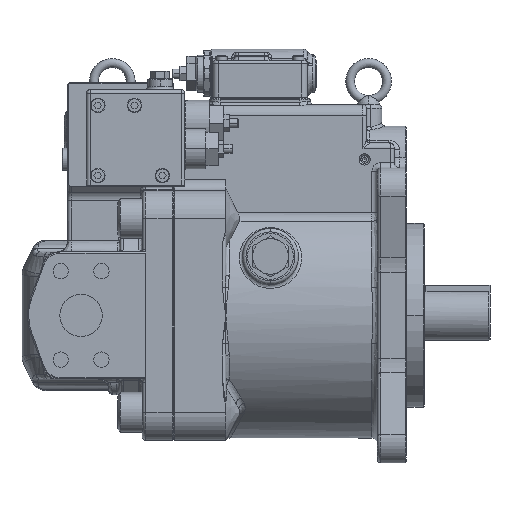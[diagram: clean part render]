
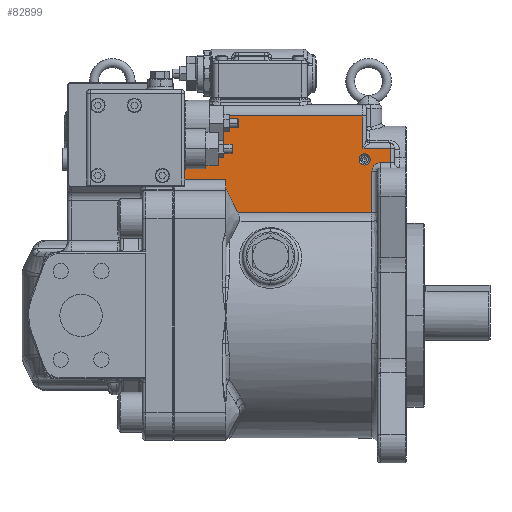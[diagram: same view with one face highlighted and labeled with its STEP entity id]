
A CAD part, left-side view. The second image highlights one B-rep face of the part: STEP entity #82899.
In plain terms, the highlighted planar face has unit normal (-1, 0, 0).
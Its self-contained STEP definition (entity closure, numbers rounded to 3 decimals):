
#65804=CARTESIAN_POINT('',(-66.669,49.394,117.955));
#65805=VERTEX_POINT('',#65804);
#65806=CARTESIAN_POINT('',(-66.669,49.394,112.955));
#65807=DIRECTION('',(1.0,0.0,0.0));
#65808=DIRECTION('',(0.0,0.0,1.0));
#65809=AXIS2_PLACEMENT_3D('',#65806,#65807,#65808);
#65810=CIRCLE('',#65809,5.0);
#65811=EDGE_CURVE('',#65805,#65805,#65810,.T.);
#68296=CARTESIAN_POINT('',(-66.669,219.894,151.955));
#68297=VERTEX_POINT('',#68296);
#68305=CARTESIAN_POINT('',(-66.669,50.894,151.955));
#68306=VERTEX_POINT('',#68305);
#68307=CARTESIAN_POINT('',(-66.669,219.894,151.955));
#68308=DIRECTION('',(0.0,-1.0,0.0));
#68309=VECTOR('',#68308,169.);
#68310=LINE('',#68307,#68309);
#68311=EDGE_CURVE('',#68297,#68306,#68310,.T.);
#71828=CARTESIAN_POINT('',(-66.669,163.32,64.993));
#71829=VERTEX_POINT('',#71828);
#71837=CARTESIAN_POINT('',(-66.669,173.894,86.955));
#71838=VERTEX_POINT('',#71837);
#71839=CARTESIAN_POINT('',(-66.669,173.894,86.955));
#71840=DIRECTION('',(0.0,-0.434,-0.901));
#71841=VECTOR('',#71840,24.375);
#71842=LINE('',#71839,#71841);
#71843=EDGE_CURVE('',#71838,#71829,#71842,.T.);
#78336=CARTESIAN_POINT('',(-66.669,50.894,122.955));
#78337=VERTEX_POINT('',#78336);
#81207=CARTESIAN_POINT('',(-66.669,50.894,151.955));
#81208=DIRECTION('',(0.0,0.0,-1.0));
#81209=VECTOR('',#81208,29.);
#81210=LINE('',#81207,#81209);
#81211=EDGE_CURVE('',#68306,#78337,#81210,.T.);
#81839=CARTESIAN_POINT('',(-66.669,25.894,110.205));
#81840=VERTEX_POINT('',#81839);
#81873=CARTESIAN_POINT('',(-66.669,34.894,110.205));
#81874=VERTEX_POINT('',#81873);
#81891=CARTESIAN_POINT('',(-66.669,25.894,110.205));
#81892=DIRECTION('',(0.0,1.0,0.0));
#81893=VECTOR('',#81892,9.);
#81894=LINE('',#81891,#81893);
#81895=EDGE_CURVE('',#81840,#81874,#81894,.T.);
#81953=CARTESIAN_POINT('',(-66.669,42.894,102.205));
#81954=VERTEX_POINT('',#81953);
#81972=CARTESIAN_POINT('',(-66.669,34.894,102.205));
#81973=DIRECTION('',(-1.,0.0,0.0));
#81974=DIRECTION('',(0.0,0.707,0.707));
#81975=AXIS2_PLACEMENT_3D('',#81972,#81973,#81974);
#81976=CIRCLE('',#81975,8.);
#81977=EDGE_CURVE('',#81874,#81954,#81976,.T.);
#81987=CARTESIAN_POINT('',(-66.669,42.894,64.993));
#81988=VERTEX_POINT('',#81987);
#82005=CARTESIAN_POINT('',(-66.669,42.894,102.205));
#82006=DIRECTION('',(0.0,0.0,-1.0));
#82007=VECTOR('',#82006,37.212);
#82008=LINE('',#82005,#82007);
#82009=EDGE_CURVE('',#81954,#81988,#82008,.T.);
#82743=CARTESIAN_POINT('',(-66.669,25.894,122.955));
#82744=VERTEX_POINT('',#82743);
#82801=CARTESIAN_POINT('',(-66.669,25.894,122.955));
#82802=DIRECTION('',(0.0,1.0,0.0));
#82803=VECTOR('',#82802,25.);
#82804=LINE('',#82801,#82803);
#82805=EDGE_CURVE('',#82744,#78337,#82804,.T.);
#82844=CARTESIAN_POINT('',(-66.669,25.894,122.955));
#82845=DIRECTION('',(0.0,0.0,-1.0));
#82846=VECTOR('',#82845,12.75);
#82847=LINE('',#82844,#82846);
#82848=EDGE_CURVE('',#82744,#81840,#82847,.T.);
#82853=CARTESIAN_POINT('',(-66.669,16.194,60.644));
#82854=DIRECTION('',(-1.0,0.0,0.0));
#82855=DIRECTION('',(0.0,0.0,1.0));
#82856=AXIS2_PLACEMENT_3D('',#82853,#82854,#82855);
#82857=PLANE('',#82856);
#82858=ORIENTED_EDGE('',*,*,#81211,.F.);
#82859=ORIENTED_EDGE('',*,*,#68311,.F.);
#82860=CARTESIAN_POINT('',(-66.669,219.894,94.955));
#82861=VERTEX_POINT('',#82860);
#82862=CARTESIAN_POINT('',(-66.669,219.894,94.955));
#82863=DIRECTION('',(0.0,0.0,1.0));
#82864=VECTOR('',#82863,57.);
#82865=LINE('',#82862,#82864);
#82866=EDGE_CURVE('',#82861,#68297,#82865,.T.);
#82867=ORIENTED_EDGE('',*,*,#82866,.F.);
#82868=CARTESIAN_POINT('',(-66.669,173.894,94.955));
#82869=VERTEX_POINT('',#82868);
#82870=CARTESIAN_POINT('',(-66.669,219.894,94.955));
#82871=DIRECTION('',(0.0,-1.0,0.0));
#82872=VECTOR('',#82871,46.0);
#82873=LINE('',#82870,#82872);
#82874=EDGE_CURVE('',#82861,#82869,#82873,.T.);
#82875=ORIENTED_EDGE('',*,*,#82874,.T.);
#82876=CARTESIAN_POINT('',(-66.669,173.894,86.955));
#82877=DIRECTION('',(0.0,0.0,1.0));
#82878=VECTOR('',#82877,8.);
#82879=LINE('',#82876,#82878);
#82880=EDGE_CURVE('',#71838,#82869,#82879,.T.);
#82881=ORIENTED_EDGE('',*,*,#82880,.F.);
#82882=ORIENTED_EDGE('',*,*,#71843,.T.);
#82883=CARTESIAN_POINT('',(-66.669,163.32,64.993));
#82884=DIRECTION('',(0.0,-1.0,0.0));
#82885=VECTOR('',#82884,120.426);
#82886=LINE('',#82883,#82885);
#82887=EDGE_CURVE('',#71829,#81988,#82886,.T.);
#82888=ORIENTED_EDGE('',*,*,#82887,.T.);
#82889=ORIENTED_EDGE('',*,*,#82009,.F.);
#82890=ORIENTED_EDGE('',*,*,#81977,.F.);
#82891=ORIENTED_EDGE('',*,*,#81895,.F.);
#82892=ORIENTED_EDGE('',*,*,#82848,.F.);
#82893=ORIENTED_EDGE('',*,*,#82805,.T.);
#82894=EDGE_LOOP('',(#82858,#82859,#82867,#82875,#82881,#82882,#82888,#82889,#82890,#82891,#82892,#82893));
#82895=FACE_OUTER_BOUND('',#82894,.T.);
#82896=ORIENTED_EDGE('',*,*,#65811,.T.);
#82897=EDGE_LOOP('',(#82896));
#82898=FACE_BOUND('',#82897,.T.);
#82899=ADVANCED_FACE('',(#82895,#82898),#82857,.T.);
